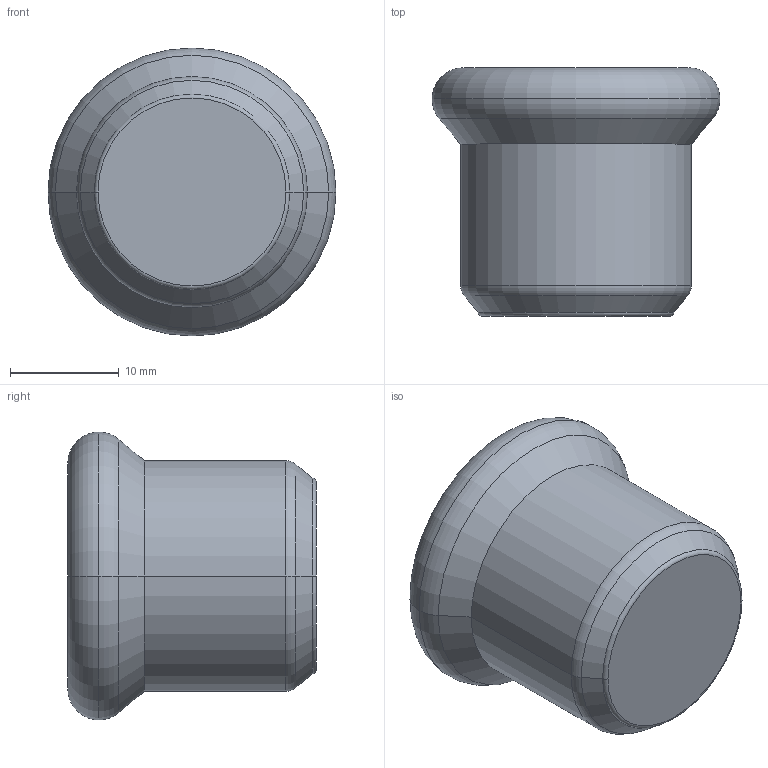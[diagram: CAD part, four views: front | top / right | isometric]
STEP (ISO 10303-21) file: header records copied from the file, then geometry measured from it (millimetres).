
FILE_DESCRIPTION(('OneSpaceDesigner STEP Export'),'2;1');
FILE_NAME('R2729 18.stp','2010-06-10T13:27:01',(''),(''),'OneSpace Designer STEP processor for AP214 (Solid Model)','OneSpace Modeling 15.00A 14-Mar-2007 (C) CoCreate Software GmbH','');
FILE_SCHEMA(('AUTOMOTIVE_DESIGN { 1 0 10303 214 1 1 1 1 }'));
Length unit declared in the file: millimetre
Products named in the file (2): R2729_18
Assembly tree (1 placements, depth 2):
  R2729_18
    R2729_18
Bounding box: 26.5 x 22.85 x 26.5 mm (x, y, z)
Volume: 3249.9 mm3; surface area: 4059.5 mm2
Topology: 1 solids, 1 shells, 61 faces, 147 edges, 94 vertices
Faces by surface type: plane 32, cylinder 17, torus 8, cone 4
Entity records: 1637 total; most frequent: ORIENTED_EDGE 294, CARTESIAN_POINT 263, DIRECTION 251, EDGE_CURVE 147, VERTEX_POINT 94, VECTOR 87, LINE 87, AXIS2_PLACEMENT_3D 82
